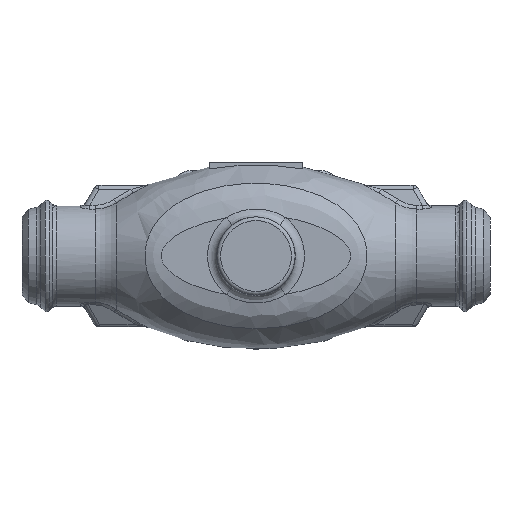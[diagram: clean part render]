
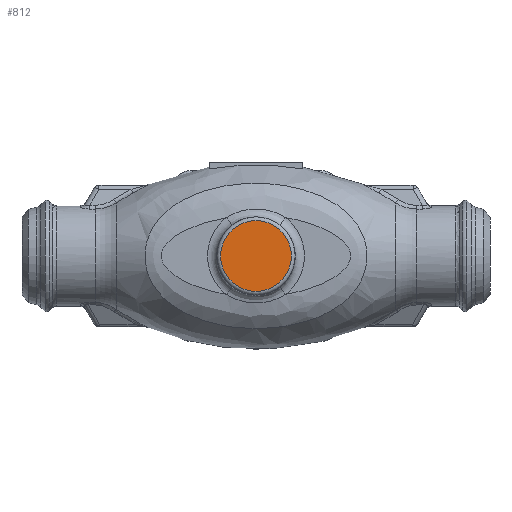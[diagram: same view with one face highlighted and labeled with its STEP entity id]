
A CAD part, front view. The second image highlights one B-rep face of the part: STEP entity #812.
In plain terms, the highlighted planar face has unit normal (0, -1, 0).
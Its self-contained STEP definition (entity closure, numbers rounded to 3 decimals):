
#308=PLANE('',#6310);
#463=FACE_OUTER_BOUND('',#1578,.T.);
#812=ADVANCED_FACE('',(#463),#308,.F.);
#1578=EDGE_LOOP('',(#2986));
#2986=ORIENTED_EDGE('',*,*,#5178,.T.);
#4623=VERTEX_POINT('',#9840);
#5178=EDGE_CURVE('',#4623,#4623,#5898,.T.);
#5898=CIRCLE('',#6309,19.);
#6309=AXIS2_PLACEMENT_3D('',#9839,#7217,#7218);
#6310=AXIS2_PLACEMENT_3D('',#9841,#7219,#7220);
#7217=DIRECTION('',(0.,-1.,0.));
#7218=DIRECTION('',(0.,0.,-1.));
#7219=DIRECTION('',(0.,1.,0.));
#7220=DIRECTION('',(0.,0.,-1.));
#9839=CARTESIAN_POINT('',(0.,-52.,0.));
#9840=CARTESIAN_POINT('',(0.,-52.,-19.));
#9841=CARTESIAN_POINT('',(0.,-52.,0.));
